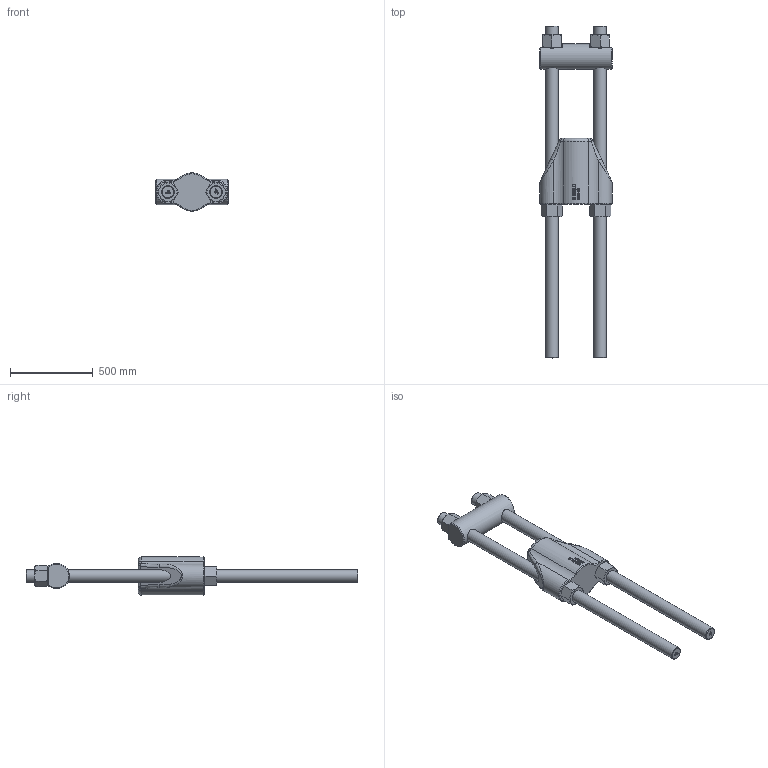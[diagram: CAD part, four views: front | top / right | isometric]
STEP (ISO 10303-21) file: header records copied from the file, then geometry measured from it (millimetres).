
FILE_DESCRIPTION(/* description */ (''),/* implementation_level */ '2;1');
FILE_NAME(/* name */ 'D:\Clienti\Redaelli (inventor)\BRC\STEP\Arrangemet\BRC072 72 111 0.stp',/* time_stamp */ '2021-05-08T08:32:40+02:00',/* author */ ('fabri'),/* organization */ (''),/* preprocessor_version */ 'ST-DEVELOPER v16.13',/* originating_system */ 'Autodesk Inventor 2018',/* authorisation */ '');
FILE_SCHEMA (('AUTOMOTIVE_DESIGN { 1 0 10303 214 3 1 1 }'));
Length unit declared in the file: millimetre
Products named in the file (5): BRC020 72 111 0; BRC020 71 112 0; BRC020 71 114 0_ROD; BRC020 71 113 0; BRC020 71 114 0_NUT
Assembly tree (8 placements, depth 2):
  BRC020 72 111 0
    BRC020 71 112 0
    BRC020 71 114 0_ROD  x2
    BRC020 71 113 0
    BRC020 71 114 0_NUT  x4
Bounding box: 434 x 2000 x 229.62 mm (x, y, z)
Volume: 47063450.4 mm3; surface area: 2083017.8 mm2
Topology: 8 solids, 8 shells, 1466 faces, 3882 edges, 2558 vertices
Faces by surface type: plane 742, bspline 591, cone 62, cylinder 47, torus 20, sphere 4
Full cylindrical faces by diameter (mm): 71.67 x4, 76 x2, 80 x4, 154 x1
Entity records: 28527 total; most frequent: CARTESIAN_POINT 10672, ORIENTED_EDGE 4210, DIRECTION 2609, EDGE_CURVE 2105, VERTEX_POINT 1394, LINE 1193, VECTOR 1193, EDGE_LOOP 889
